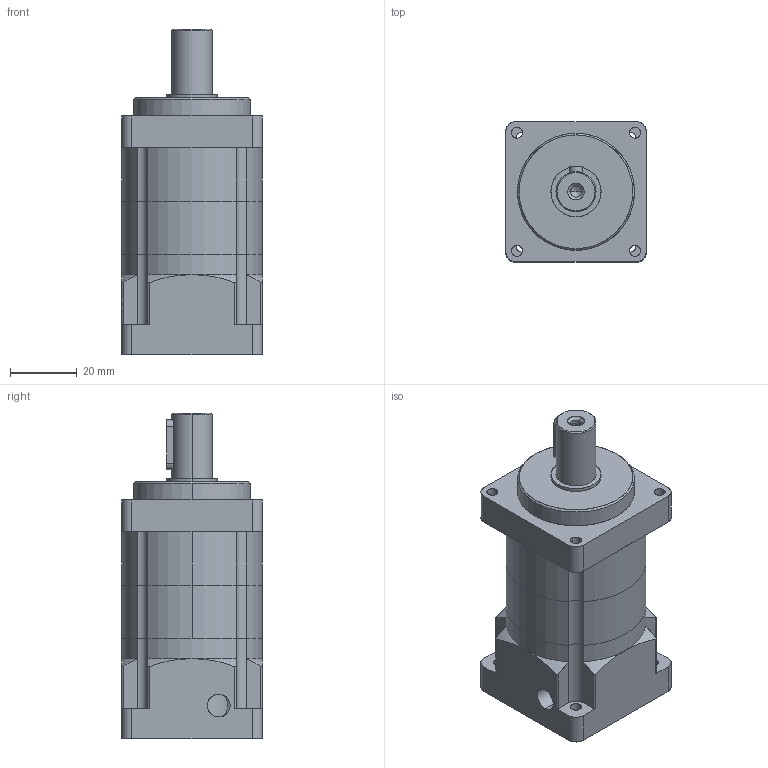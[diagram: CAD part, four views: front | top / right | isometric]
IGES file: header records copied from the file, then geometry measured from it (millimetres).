
Start section: SolidWorks IGES file using analytic representation for surfaces
Global section: file name: C:\Users\render\Documents\CAD Files\S-Gearboxes\SL-040-025\SL-040-025.IGS; native system: SolidWorks 2009; preprocessor: SolidWorks 2009; author: render; date: 100519.111042; units: millimetre
Bounding box: 42 x 42 x 97.5 mm (x, y, z)
Surface area: 32411.1 mm2 (no closed solid volume)
Topology: 0 solids, 0 shells, 160 faces, 2599 edges, 2596 vertices
Faces by surface type: revolution 101, bspline 59
